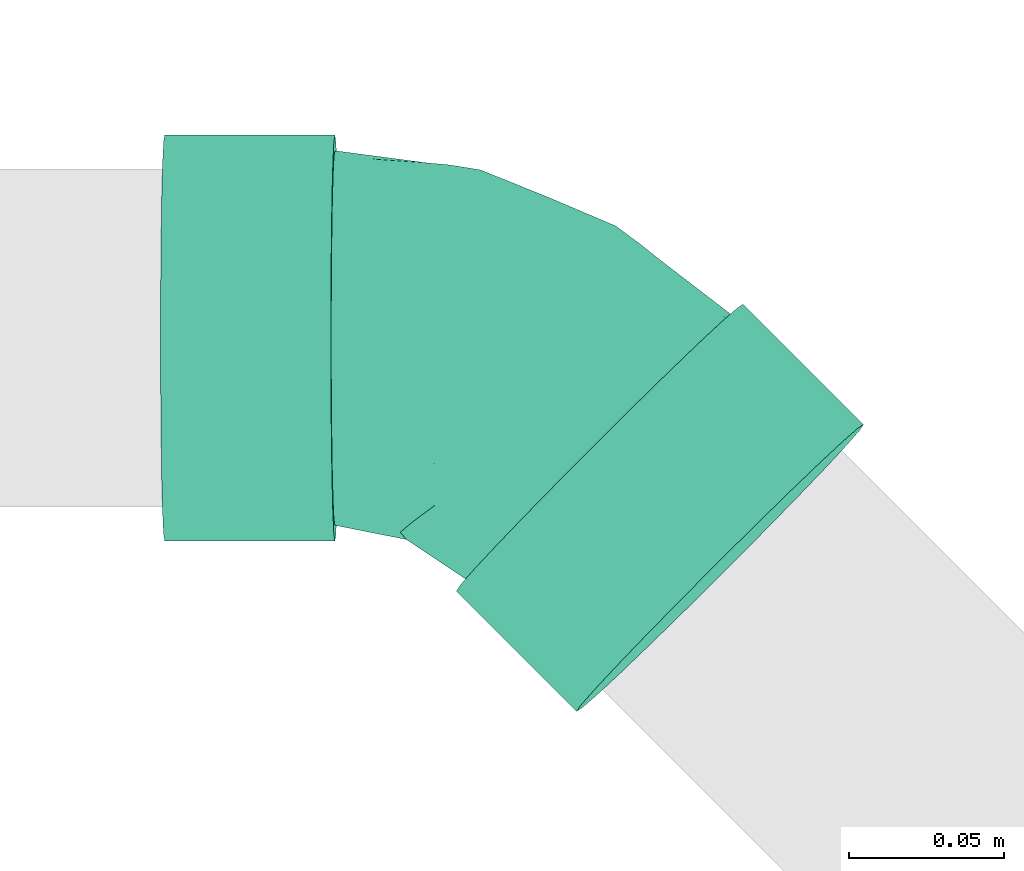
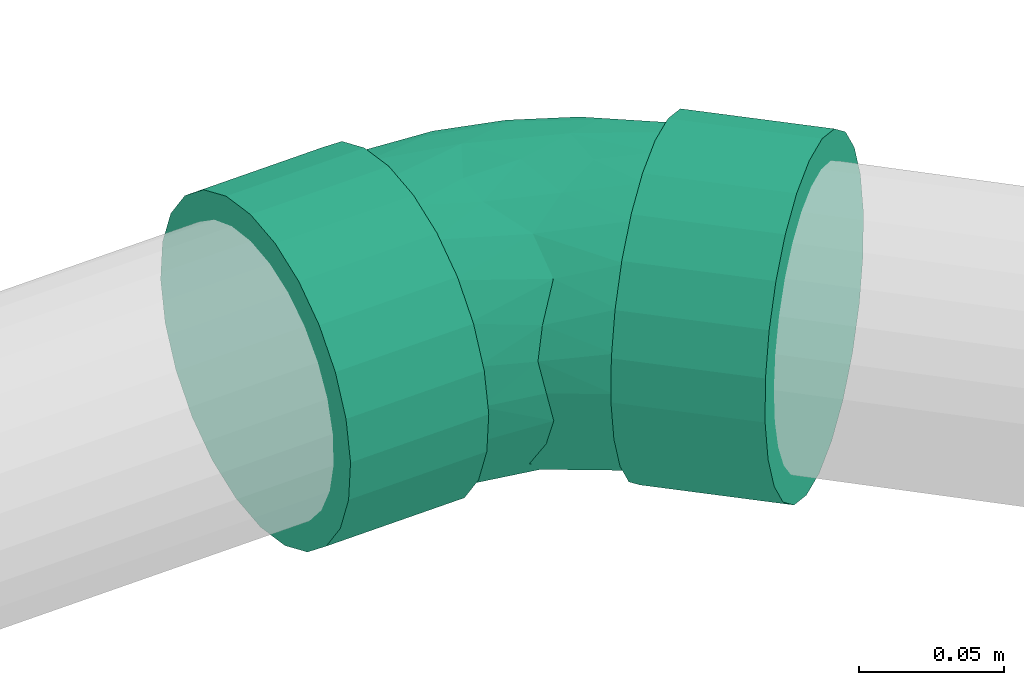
# One storey, part 68 of 83: 1 flow fitting.
"""IFC2X3 building model written with IfcOpenShell, lengths in millimetres."""

from ifc_helpers import new_model, entity, si_unit, converted_unit, derived_unit, direction, frame, origin_with_axes, place, context, subcontext, project, spatial, open_shell, surface_model, source, transform, mapped, type_object, element, save


model = new_model("IFC2X3")

# Units and contexts
model_context = context("Model", 3, precision=0.01, world=frame((0.0, 4.29681676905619e-09, 0.0)), true_north=direction((4.01073788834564e-13, 1.0)))
plan_context = context("Plan", 3, precision=0.01, world=frame((0.0, 4.29681676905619e-09, 0.0)), true_north=direction((4.01073788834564e-13, 1.0)))
body_context = subcontext(model_context, "Body", "Model", "MODEL_VIEW")
ifc_project = project(units=[converted_unit("PLANEANGLEUNIT", "DEGREE", entity("IfcPositiveLengthMeasure", 0.0174532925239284), si_unit("PLANEANGLEUNIT", "RADIAN"), dimensions=[0, 0, 0, 0, 0, 0, 0]), si_unit("AREAUNIT", "SQUARE_METRE"), si_unit("LENGTHUNIT", "METRE", prefix="MILLI"), si_unit("MASSUNIT", "GRAM", prefix="KILO"), si_unit("POWERUNIT", "WATT"), si_unit("PRESSUREUNIT", "PASCAL"), si_unit("FORCEUNIT", "NEWTON", prefix="KILO"), si_unit("ELECTRICVOLTAGEUNIT", "VOLT"), si_unit("ELECTRICCURRENTUNIT", "AMPERE"), si_unit("THERMODYNAMICTEMPERATUREUNIT", "DEGREE_CELSIUS"), si_unit("TIMEUNIT", "SECOND"), si_unit("VOLUMEUNIT", "CUBIC_METRE"), derived_unit("LINEARVELOCITYUNIT", [(si_unit("LENGTHUNIT", "METRE"), 1), (si_unit("TIMEUNIT", "SECOND"), -1)]), derived_unit("VOLUMETRICFLOWRATEUNIT", [(si_unit("VOLUMEUNIT", "CUBIC_METRE"), 1), (si_unit("TIMEUNIT", "SECOND"), -1)]), derived_unit("THERMALTRANSMITTANCEUNIT", [(si_unit("POWERUNIT", "WATT"), 1), (si_unit("THERMODYNAMICTEMPERATUREUNIT", "KELVIN"), -1), (si_unit("AREAUNIT", "SQUARE_METRE"), -1)]), derived_unit("SOUNDPRESSUREUNIT", [(si_unit("PRESSUREUNIT", "PASCAL"), 1)])], contexts=[model_context, plan_context])

# Site, building, storey
site_placement = place(None, frame((0.0, -4.29681676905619e-09, 0.0), z_axis=(0.0, 0.0, 1.0), x_axis=(1.0, 0.0, 0.0)))
site = spatial("IfcSite", under=ifc_project, at=site_placement, Name="ENGM", CompositionType="ELEMENT")
building_placement = place(site_placement, frame((0.0, 4.29681676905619e-09, 0.0), z_axis=(0.0, 0.0, 1.0), x_axis=(1.0, 0.0, 0.0)))
building = spatial("IfcBuilding", under=site, at=building_placement, Name="TI", CompositionType="ELEMENT")
storey_placement = place(building_placement, frame((0.0, 0.0, 204000.0), z_axis=(0.0, 0.0, 1.0), x_axis=(1.0, 0.0, 0.0)))
storey = spatial("IfcBuildingStorey", under=building, at=storey_placement, Name="Nivå D", CompositionType="ELEMENT", Elevation=204000.0)

# Flow fitting
pipe_fitting_type = type_object("IfcPipeFittingType", Name="magi_sewer_bend_001", PredefinedType="BEND")
shared_shape = source(origin_with_axes(), body_context, "Body", "SurfaceModel", [
    surface_model("IfcShellBasedSurfaceModel", [(-105.09712, -16.95265, -63.26814), (-105.09712, -32.75, -56.72466), (-105.09712, -46.3155, -46.3155), (-105.09712, -63.26814, -16.95265), (-105.09712, 56.72466, -32.75), (-105.09712, -56.72466, -32.75), (-105.09712, -65.5, 0.0), (-105.09712, 16.95265, -63.26814), (-105.09712, 0.0, -65.5), (-105.09712, 32.75, -56.72466), (-105.09712, 46.3155, -46.3155), (-105.09712, 63.26814, -16.95265), (-105.09712, -63.26814, 16.95265), (-105.09712, -56.72466, 32.75), (-105.09712, -46.3155, 46.3155), (-105.09712, 63.26814, 16.95265), (-105.09712, -16.95265, 63.26814), (-105.09712, 0.0, 65.5), (-105.09712, -32.75, 56.72466), (-105.09712, 46.3155, 46.3155), (-105.09712, 56.72466, 32.75), (-105.09712, 65.5, 0.0), (-105.09712, 16.95265, 63.26814), (-105.09712, 32.75, 56.72466), (-50.09711, -16.95265, 63.26814), (-50.09711, 16.95265, 63.26814), (-50.09711, 0.0, 65.5), (-50.09711, -46.3155, 46.3155), (-50.09711, -32.75, 56.72466), (-50.09711, -56.72466, 32.75), (-50.09711, -63.26814, 16.95265), (-50.09711, 46.3155, 46.3155), (-50.09711, 32.75, 56.72466), (-50.09711, 63.26814, 16.95265), (-50.09711, 56.72466, 32.75), (-50.09711, 63.26814, -16.95265), (-50.09711, 65.5, 0.0), (-50.09711, -63.26814, -16.95265), (-50.09711, 32.75, -56.72466), (-50.09711, -65.5, 0.0), (-50.09711, -16.95265, -63.26814), (-50.09711, -56.72466, -32.75), (-50.09711, -46.3155, -46.3155), (-50.09711, -32.75, -56.72466), (-50.09711, 0.0, -65.5), (-50.09711, 46.3155, -46.3155), (-50.09711, 56.72466, -32.75), (-50.09711, 16.95265, -63.26814), (29.61572, 119.04272, 16.95265), (34.24118, 114.4143, 32.75), (41.59921, 107.05155, 46.3155), (28.03807, 120.62139, 0.0), (62.35522, 86.28222, 63.26814), (51.18839, 97.45622, 56.72466), (41.59921, 107.05155, -46.3155), (120.63935, 27.9607, 0.0), (34.24118, 114.4143, -32.75), (29.61572, 119.04272, -16.95265), (86.32219, 62.29987, -63.26814), (51.18839, 97.45622, -56.72466), (62.35522, 86.28222, -63.26814), (74.33871, 74.29105, 65.5), (86.32219, 62.29987, 63.26814), (97.48903, 51.12588, 56.72466), (114.43624, 34.1678, 32.75), (107.0782, 41.53055, 46.3155), (119.06169, 29.53937, 16.95265), (114.43624, 34.1678, -32.75), (97.48903, 51.12588, -56.72466), (74.33871, 74.29105, -65.5), (107.0782, 41.53055, -46.3155), (119.06169, 29.53937, -16.95265), (80.15835, -9.33903, 16.95265), (80.15835, -9.33903, -16.95265), (81.73601, -10.9177, 0.0), (75.5329, -4.71061, 32.75), (68.17486, 2.65215, 46.3155), (58.58569, 12.24748, 56.72466), (47.41885, 23.42147, 63.26814), (75.5329, -4.71061, -32.75), (47.41885, 23.42147, -63.26814), (68.17486, 2.65215, -46.3155), (58.58569, 12.24748, -56.72466), (23.45188, 47.40382, -63.26814), (35.43537, 35.41265, -65.5), (23.45188, 47.40382, 63.26814), (-4.66216, 75.5359, 32.75), (12.28505, 58.57782, 56.72466), (2.69587, 68.17315, 46.3155), (-9.28762, 80.16432, 16.95265), (2.69587, 68.17315, -46.3155), (12.28505, 58.57782, -56.72466), (-10.86527, 81.74299, 0.0), (-9.28762, 80.16432, -16.95265), (-4.66216, 75.5359, -32.75), (35.43537, 35.41265, 65.5), (-50.09711, 15.65855, -58.43851), (-50.09711, 0.0, -60.5), (-50.09711, 58.43851, -15.65855), (-50.09711, 30.25, -52.39454), (-50.09711, 52.39454, -30.25), (-50.09711, 42.77996, -42.77996), (-50.09711, -60.5, 0.0), (-50.09711, -30.25, -52.39454), (-50.09711, -42.77996, -42.77996), (-50.09711, -15.65855, -58.43851), (-50.09711, -58.43851, -15.65855), (-50.09711, -52.39454, -30.25), (-50.09711, -58.43851, 15.65855), (-50.09711, 58.43851, 15.65855), (-50.09711, 52.39454, 30.25), (-50.09711, 42.77996, 42.77996), (-50.09711, 30.25, 52.39454), (-50.09711, 15.65855, 58.43851), (-50.09711, -52.39454, 30.25), (-50.09711, -42.77996, 42.77996), (-50.09711, -30.25, 52.39454), (-50.09711, -15.65855, 58.43851), (-50.09711, 0.0, 60.5), (-50.09711, 60.5, 0.0), (-5.87365, 76.74817, -15.65855), (35.43537, 35.41265, -60.5), (24.36665, 46.48847, -58.43851), (14.05225, 56.80949, -52.39454), (5.19507, 65.67234, -42.77996), (-1.60128, 72.47306, -30.25), (76.74438, -5.92287, 15.65855), (56.81849, 14.01581, -52.39454), (78.2016, -7.38103, 0.0), (65.67567, 5.15295, -42.77996), (46.50408, 24.33683, -58.43851), (72.47202, -1.64776, -30.25), (76.74438, -5.92287, -15.65855), (-5.87365, 76.74817, 15.65855), (5.19507, 65.67234, 42.77996), (-1.60128, 72.47306, 30.25), (14.05225, 56.80949, 52.39454), (24.36665, 46.48847, 58.43851), (65.67567, 5.15295, 42.77996), (72.47202, -1.64776, 30.25), (56.81849, 14.01581, 52.39454), (35.43537, 35.41265, 60.5), (46.50408, 24.33683, 58.43851), (-7.33087, 78.20633, 0.0), (15.40567, -37.20946, 33.71742), (-13.37103, -34.19427, 46.68503), (-19.5153, -46.2709, 35.42573), (-20.1912, -56.56444, 0.0), (-3.1402, -54.32056, 0.0), (-12.8996, -55.73915, 10.3326), (46.5118, -18.93399, 35.42573), (-23.96263, -22.18595, 55.29444), (6.21197, -15.00384, 54.53279), (1.80374, 36.36406, 56.46755), (10.93244, 28.62589, 59.61919), (-18.0403, -5.82555, 59.69867), (-5.7497, 13.88731, 60.28721), (-30.30108, 8.38288, 60.13273), (-17.17577, 41.48478, 49.39142), (-26.65865, 50.73833, 38.17898), (32.63237, 1.24584, 55.29444), (-23.22697, 25.1756, 56.55863), (23.33427, -39.61139, 23.84727), (-10.83602, -52.34358, 21.01156), (18.77935, -45.35792, 13.15464), (-24.91055, 60.16666, 24.85463), (48.52521, -30.3077, 10.3326), (54.26618, -25.73716, 0.0), (-24.22621, 64.82026, 12.71103), (44.66531, -29.3646, 21.01156), (16.87847, 8.63172, 59.69867), (33.62902, -14.73504, 46.68503), (-26.95373, 65.10158, 0.0), (10.15154, -24.5191, 48.25066), (18.73954, -45.26178, 0.0), (40.61928, -36.20301, 0.0), (-18.0403, -5.82555, -59.69867), (-12.8996, -55.73915, -10.3326), (18.77935, -45.35792, -13.15464), (16.87847, 8.63172, -59.69867), (-26.98088, 24.44649, -56.46755), (-27.96795, 12.52013, -59.61919), (-17.00936, 54.73338, -38.17898), (33.62902, -14.73504, -46.68503), (-24.91055, 60.16666, -24.85463), (44.66531, -29.3646, -21.01156), (-28.68414, 62.97456, -12.71102), (-1.36691, 34.22623, -56.55863), (-10.83602, -52.34358, -21.01156), (-17.17577, 41.48478, -49.39142), (-19.51529, -46.2709, -35.42573), (-13.37103, -34.19427, -46.68503), (10.15154, -24.5191, -48.25066), (15.40567, -37.20946, -33.71742), (-23.96263, -22.18595, -55.29444), (32.63237, 1.24584, -55.29444), (6.21197, -15.00384, -54.53279), (48.52521, -30.3077, -10.3326), (15.50728, 27.34872, -60.13273), (11.49539, -44.51299, -23.84727), (46.5118, -18.93399, -35.42573), (-5.7497, 13.88731, -60.28721)], [open_shell([[[0, 1, 2]], [[0, 2, 3]], [[0, 3, 4]], [[3, 2, 5]], [[4, 3, 6]], [[0, 7, 8]], [[0, 9, 7]], [[10, 9, 0]], [[0, 4, 10]], [[6, 11, 4]], [[6, 12, 11]], [[12, 13, 14]], [[11, 14, 15]], [[16, 17, 14]], [[16, 14, 18]], [[15, 14, 17]], [[15, 19, 20]], [[21, 11, 15]], [[19, 22, 23]], [[22, 19, 15]], [[17, 22, 15]], [[11, 12, 14]], [[24, 25, 26]], [[27, 24, 28]], [[27, 29, 30]], [[24, 27, 25]], [[30, 25, 27]], [[25, 31, 32]], [[31, 25, 33]], [[31, 33, 34]], [[25, 30, 33]], [[33, 35, 36]], [[33, 30, 35]], [[37, 38, 39]], [[40, 37, 41]], [[42, 43, 40]], [[42, 40, 41]], [[44, 37, 40]], [[39, 45, 46]], [[46, 35, 39]], [[38, 44, 47]], [[38, 45, 39]], [[38, 37, 44]], [[39, 35, 30]], [[35, 11, 36]], [[46, 4, 35]], [[47, 44, 7]], [[45, 10, 46]], [[35, 4, 11]], [[11, 21, 36]], [[9, 38, 7]], [[9, 10, 45]], [[38, 47, 7]], [[10, 4, 46]], [[45, 38, 9]], [[44, 8, 7]], [[0, 40, 43]], [[42, 1, 43]], [[5, 41, 37]], [[42, 41, 2]], [[3, 37, 39]], [[40, 0, 8]], [[43, 1, 0]], [[42, 2, 1]], [[41, 5, 2]], [[3, 5, 37]], [[39, 6, 3]], [[40, 8, 44]], [[30, 12, 39]], [[29, 13, 30]], [[28, 18, 27]], [[27, 14, 29]], [[30, 13, 12]], [[12, 6, 39]], [[17, 16, 24]], [[16, 18, 28]], [[14, 27, 18]], [[14, 13, 29]], [[24, 16, 28]], [[24, 26, 17]], [[22, 25, 32]], [[31, 23, 32]], [[20, 34, 33]], [[31, 34, 19]], [[15, 33, 36]], [[25, 22, 17]], [[32, 23, 22]], [[31, 19, 23]], [[34, 20, 19]], [[15, 20, 33]], [[36, 21, 15]], [[25, 17, 26]], [[48, 49, 50]], [[51, 48, 50]], [[51, 50, 52]], [[52, 50, 53]], [[54, 52, 55]], [[51, 56, 57]], [[56, 51, 54]], [[54, 58, 59]], [[54, 51, 52]], [[58, 60, 59]], [[52, 61, 62]], [[55, 62, 63]], [[64, 63, 65]], [[64, 66, 55]], [[64, 55, 63]], [[58, 54, 55]], [[58, 67, 68]], [[69, 60, 58]], [[68, 67, 70]], [[58, 55, 67]], [[71, 67, 55]], [[55, 52, 62]], [[72, 73, 74]], [[75, 73, 72]], [[76, 77, 78]], [[75, 76, 73]], [[76, 78, 73]], [[79, 80, 81]], [[80, 79, 73]], [[81, 80, 82]], [[73, 78, 80]], [[80, 83, 84]], [[80, 78, 85]], [[80, 85, 86]], [[86, 85, 87]], [[80, 86, 83]], [[86, 87, 88]], [[83, 86, 89]], [[83, 90, 91]], [[90, 83, 92]], [[90, 93, 94]], [[93, 90, 92]], [[83, 89, 92]], [[85, 78, 95]], [[83, 60, 84]], [[91, 59, 83]], [[93, 92, 57]], [[90, 54, 91]], [[83, 59, 60]], [[60, 69, 84]], [[56, 94, 57]], [[56, 54, 90]], [[94, 93, 57]], [[54, 59, 91]], [[90, 94, 56]], [[92, 51, 57]], [[48, 89, 86]], [[88, 49, 86]], [[53, 87, 85]], [[88, 87, 50]], [[52, 85, 95]], [[89, 48, 51]], [[86, 49, 48]], [[88, 50, 49]], [[87, 53, 50]], [[52, 53, 85]], [[95, 61, 52]], [[89, 51, 92]], [[62, 95, 78]], [[63, 78, 77]], [[64, 75, 72]], [[66, 72, 74]], [[78, 63, 62]], [[62, 61, 95]], [[76, 65, 63]], [[65, 76, 64]], [[64, 76, 75]], [[72, 66, 64]], [[76, 63, 77]], [[74, 55, 66]], [[71, 73, 79]], [[81, 67, 79]], [[68, 82, 80]], [[81, 82, 70]], [[58, 80, 84]], [[73, 71, 55]], [[79, 67, 71]], [[81, 70, 67]], [[82, 68, 70]], [[58, 68, 80]], [[84, 69, 58]], [[73, 55, 74]], [[96, 97, 98]], [[99, 96, 98]], [[98, 100, 101]], [[99, 98, 101]], [[102, 98, 97]], [[103, 104, 105]], [[104, 97, 105]], [[106, 102, 107]], [[104, 107, 102]], [[104, 102, 97]], [[102, 108, 98]], [[109, 98, 108]], [[110, 109, 111]], [[112, 109, 108]], [[111, 109, 112]], [[113, 112, 108]], [[114, 115, 108]], [[116, 108, 115]], [[117, 118, 116]], [[108, 116, 118]], [[118, 113, 108]], [[119, 98, 109]], [[120, 121, 122]], [[120, 122, 123]], [[124, 125, 120]], [[124, 120, 123]], [[126, 127, 121]], [[127, 128, 129]], [[127, 130, 121]], [[131, 128, 132]], [[128, 131, 129]], [[127, 126, 128]], [[121, 120, 126]], [[126, 120, 133]], [[134, 133, 135]], [[133, 136, 126]], [[136, 133, 134]], [[137, 126, 136]], [[126, 138, 139]], [[138, 126, 140]], [[140, 141, 142]], [[141, 140, 126]], [[126, 137, 141]], [[133, 120, 143]], [[144, 145, 146]], [[147, 148, 149]], [[116, 115, 145]], [[139, 138, 150]], [[151, 145, 152]], [[146, 145, 115]], [[137, 153, 154]], [[117, 116, 151]], [[155, 156, 157]], [[118, 117, 155]], [[111, 158, 159]], [[140, 142, 160]], [[157, 113, 118]], [[112, 161, 158]], [[108, 147, 149]], [[136, 134, 158]], [[162, 163, 164]], [[158, 111, 112]], [[115, 114, 146]], [[110, 159, 165]], [[109, 110, 165]], [[126, 166, 167]], [[168, 119, 109]], [[169, 162, 164]], [[163, 149, 164]], [[112, 113, 161]], [[141, 154, 170]], [[138, 140, 171]], [[135, 133, 165]], [[170, 142, 141]], [[144, 146, 163]], [[138, 171, 150]], [[156, 154, 153]], [[171, 140, 160]], [[114, 163, 146]], [[166, 126, 169]], [[144, 150, 171]], [[157, 161, 113]], [[144, 162, 150]], [[109, 165, 168]], [[114, 108, 163]], [[172, 168, 143]], [[145, 173, 152]], [[133, 168, 165]], [[152, 170, 155]], [[135, 165, 159]], [[152, 160, 170]], [[135, 159, 134]], [[156, 155, 170]], [[137, 136, 153]], [[153, 158, 161]], [[151, 155, 117]], [[110, 111, 159]], [[169, 126, 139]], [[169, 139, 150]], [[173, 144, 171]], [[134, 159, 158]], [[158, 153, 136]], [[156, 153, 161]], [[145, 151, 116]], [[155, 151, 152]], [[170, 160, 142]], [[171, 160, 152]], [[108, 102, 147]], [[164, 148, 174]], [[108, 149, 163]], [[148, 164, 149]], [[166, 164, 175]], [[167, 166, 175]], [[167, 128, 126]], [[164, 166, 169]], [[170, 154, 156]], [[141, 137, 154]], [[155, 157, 118]], [[161, 157, 156]], [[144, 173, 145]], [[171, 152, 173]], [[143, 168, 133]], [[168, 172, 119]], [[150, 162, 169]], [[163, 162, 144]], [[175, 164, 174]], [[105, 97, 176]], [[148, 177, 178]], [[121, 130, 179]], [[180, 181, 96]], [[100, 182, 101]], [[127, 129, 183]], [[184, 182, 100]], [[131, 132, 185]], [[98, 186, 184]], [[123, 122, 187]], [[106, 177, 147]], [[99, 180, 96]], [[177, 106, 188]], [[124, 189, 182]], [[188, 107, 190]], [[190, 104, 191]], [[104, 103, 191]], [[192, 193, 191]], [[106, 107, 188]], [[104, 190, 107]], [[194, 103, 105]], [[195, 179, 130]], [[120, 125, 184]], [[196, 194, 176]], [[119, 172, 186]], [[193, 190, 191]], [[143, 120, 186]], [[196, 176, 179]], [[124, 123, 189]], [[184, 100, 98]], [[125, 182, 184]], [[194, 191, 103]], [[187, 189, 123]], [[181, 176, 97]], [[189, 187, 180]], [[101, 189, 99]], [[132, 167, 197]], [[198, 122, 121]], [[195, 130, 127]], [[199, 185, 178]], [[129, 200, 183]], [[196, 195, 183]], [[129, 131, 200]], [[201, 198, 179]], [[200, 193, 183]], [[201, 179, 176]], [[197, 167, 175]], [[198, 187, 122]], [[201, 181, 180]], [[177, 188, 178]], [[193, 199, 190]], [[183, 192, 196]], [[131, 185, 200]], [[120, 184, 186]], [[193, 200, 185]], [[125, 124, 182]], [[101, 182, 189]], [[189, 180, 99]], [[201, 180, 187]], [[176, 194, 105]], [[191, 194, 196]], [[183, 195, 127]], [[179, 195, 196]], [[147, 177, 148]], [[147, 102, 106]], [[199, 178, 188]], [[197, 178, 185]], [[178, 175, 174]], [[132, 128, 167]], [[178, 197, 175]], [[132, 197, 185]], [[176, 181, 201]], [[97, 96, 181]], [[179, 198, 121]], [[187, 198, 201]], [[193, 192, 183]], [[191, 196, 192]], [[119, 186, 98]], [[186, 172, 143]], [[190, 199, 188]], [[185, 199, 193]], [[148, 178, 174]]])]),
])
flow_fitting_placement = place(storey_placement, frame((609339.71229, 694372.51426, 6239.66886000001), z_axis=(-0.0199920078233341, 0.0180390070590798, 0.999637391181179), x_axis=(-0.706937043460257, 0.706765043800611, -0.0268921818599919)))
element("IfcFlowFitting", 1, at=flow_fitting_placement, inside=storey, type_object=pipe_fitting_type, Name="magi_sewer_bend_001", context=body_context, shape_type="MappedRepresentation", body=[
    mapped(shared_shape, transform((0.0, 0.0, 0.0), scale=1.0)),
])

save(model, "model.ifc")
